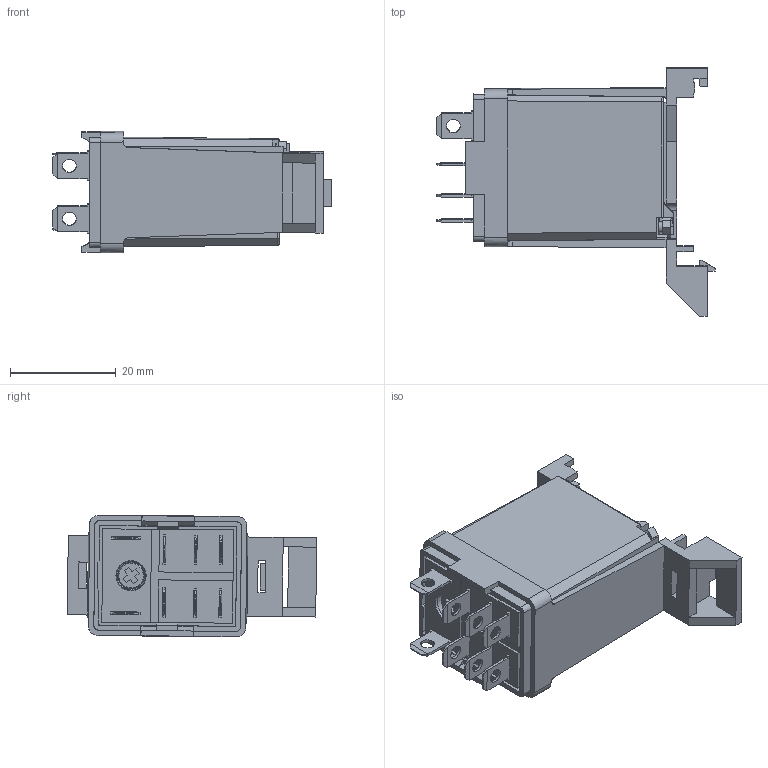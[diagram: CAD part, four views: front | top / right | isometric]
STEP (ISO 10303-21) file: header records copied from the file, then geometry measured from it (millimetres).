
FILE_DESCRIPTION(/* description */ ('Unknown'),/* implementation_level */ '2;1');
FILE_NAME(/* name */ '05627_with_5632',/* time_stamp */ '2015-12-09T11:26:44+01:00',/* author */ ('Unknown'),/* organization */ ('Unknown'),/* preprocessor_version */ 'ST-DEVELOPER v16',/* originating_system */ 'DEX',/* authorisation */ $);
FILE_SCHEMA (('AUTOMOTIVE_DESIGN {1 0 10303 214 3 1 1}'));
Length unit declared in the file: millimetre
Products named in the file (1): 05625_with_5632_c
Bounding box: 52.6 x 47.03 x 22.98 mm (x, y, z)
Volume: 3072.9 mm3; surface area: 13417.9 mm2
Topology: 1 solids, 6 shells, 445 faces, 1410 edges, 967 vertices
Faces by surface type: plane 391, cylinder 43, cone 9, bspline 2
Full cylindrical faces by diameter (mm): 2 x1, 2.6 x8, 5 x1
Entity records: 17048 total; most frequent: CARTESIAN_POINT 3207, ORIENTED_EDGE 2595, DIRECTION 2333, EDGE_CURVE 1383, LINE 1243, VECTOR 1243, VERTEX_POINT 955, AXIS2_PLACEMENT_3D 545
